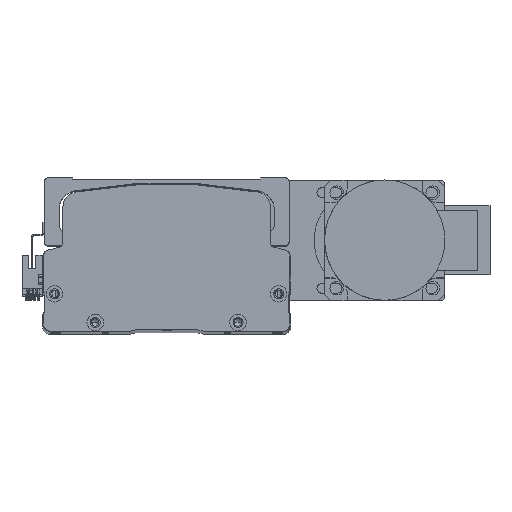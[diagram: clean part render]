
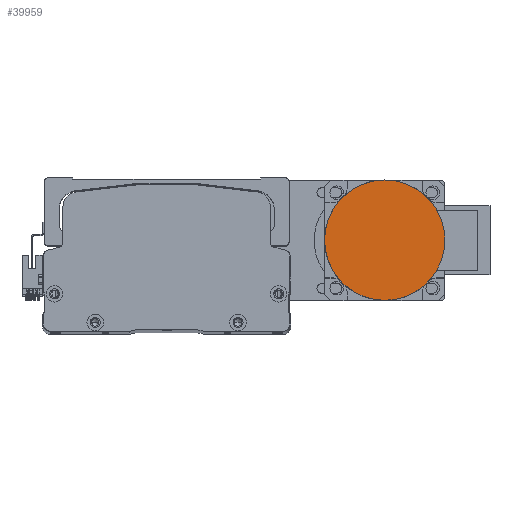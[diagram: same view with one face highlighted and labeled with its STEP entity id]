
A CAD part, top view. The second image highlights one B-rep face of the part: STEP entity #39959.
In plain terms, the highlighted planar face has unit normal (0, 0, 1) as drawn and (0, -1, 0) by its records, which use the part's own axes.
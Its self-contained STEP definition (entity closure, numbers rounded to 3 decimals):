
#3156 = CARTESIAN_POINT ( 'NONE',  ( 0., -27., -40. ) ) ;
#4712 = CARTESIAN_POINT ( 'NONE',  ( 0., -27., 0. ) ) ;
#5517 = DIRECTION ( 'NONE',  ( 0., 1., 0. ) ) ;
#9580 = DIRECTION ( 'NONE',  ( 0., 0., -1. ) ) ;
#10147 = CARTESIAN_POINT ( 'NONE',  ( 0., -27., 0. ) ) ;
#12450 = CARTESIAN_POINT ( 'NONE',  ( 0., -27., 0. ) ) ;
#13055 = ORIENTED_EDGE ( 'NONE', *, *, #33746, .T. ) ;
#14880 = AXIS2_PLACEMENT_3D ( 'NONE', #4712, #38245, #9580 ) ;
#17243 = DIRECTION ( 'NONE',  ( 0., 0., -1. ) ) ;
#20677 = EDGE_LOOP ( 'NONE', ( #13055, #34808 ) ) ;
#25072 = CARTESIAN_POINT ( 'NONE',  ( 0., -27., 40. ) ) ;
#29020 = PLANE ( 'NONE',  #54138 ) ;
#31103 = VERTEX_POINT ( 'NONE', #3156 ) ;
#33746 = EDGE_CURVE ( 'NONE', #31103, #35374, #40732, .T. ) ;
#34808 = ORIENTED_EDGE ( 'NONE', *, *, #42656, .T. ) ;
#35374 = VERTEX_POINT ( 'NONE', #25072 ) ;
#35869 = FACE_OUTER_BOUND ( 'NONE', #20677, .T. ) ;
#38245 = DIRECTION ( 'NONE',  ( 0., -1., 0. ) ) ;
#39024 = DIRECTION ( 'NONE',  ( 0., 0., 1. ) ) ;
#39959 = ADVANCED_FACE ( 'NONE', ( #35869 ), #29020, .F. ) ;
#40732 = CIRCLE ( 'NONE', #14880, 40. ) ;
#40873 = CIRCLE ( 'NONE', #59105, 40. ) ;
#42656 = EDGE_CURVE ( 'NONE', #35374, #31103, #40873, .T. ) ;
#45941 = DIRECTION ( 'NONE',  ( 0., -1., 0. ) ) ;
#54138 = AXIS2_PLACEMENT_3D ( 'NONE', #10147, #5517, #39024 ) ;
#59105 = AXIS2_PLACEMENT_3D ( 'NONE', #12450, #45941, #17243 ) ;
